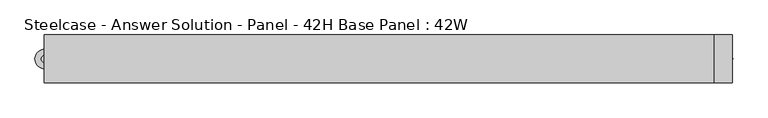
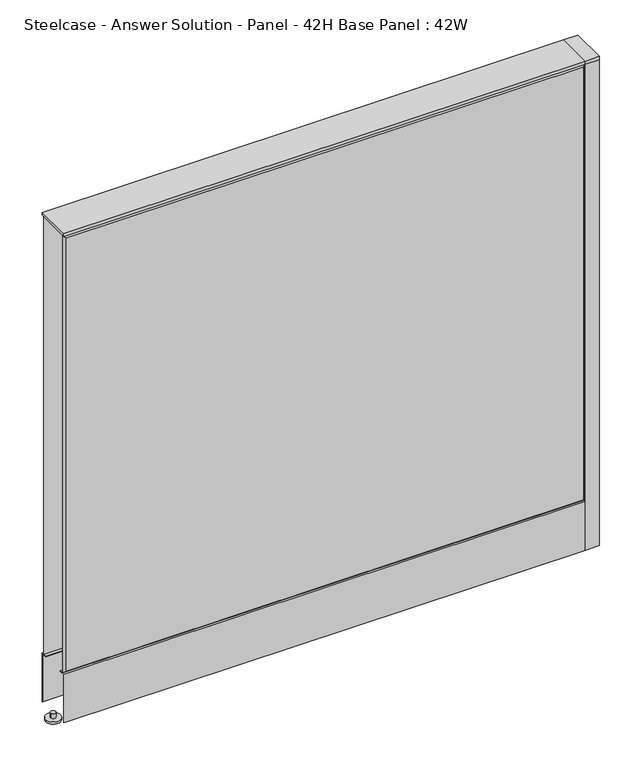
"""IFC4 building model written with IfcOpenShell, lengths in millimetres: furniture geometry, Steelcase - Answer Solution - Panel - 42H Base Panel : 42W."""

from ifc_helpers import new_model, si_unit, point, frame, frame_2d, origin, place, context, project, spatial, polyline, circle_curve, trimmed, segment, composite_curve, outline, extrude, faceted_brep, source, transform, mapped, element, save


def steelcase_answer_solution_panel_42h_base_panel_42w_d2b621ae(model_context):
    return source(origin(), model_context, "Body", "SolidModel", [
        extrude(outline(composite_curve([segment(trimmed(circle_curve(frame_2d((547.624, 0.0039657)), 5.08), [point((552.704, 0.0039657))], [point((542.544, 0.0039657))], False, "CARTESIAN"), True, "CONTINUOUS"), segment(trimmed(circle_curve(frame_2d((547.624, 0.0039657)), 5.08), [point((542.544, 0.0039657))], [point((552.704, 0.0039657))], False, "CARTESIAN"), True, "CONTINUOUS")], self_intersect=False)), frame((0.0, 0.0, 5.0799671), z_axis=(0.0, 0.0, 1.0), x_axis=(1.0, 0.0, 0.0)), (0.0, 0.0, 1.0), 10.414),
        extrude(outline(composite_curve([segment(trimmed(circle_curve(frame_2d((547.624, 0.0039657)), 15.24), [point((562.864, 0.0039657))], [point((532.384, 0.0039657))], False, "CARTESIAN"), True, "CONTINUOUS"), segment(trimmed(circle_curve(frame_2d((547.624, 0.0039657)), 15.24), [point((532.384, 0.0039657))], [point((562.864, 0.0039657))], False, "CARTESIAN"), True, "CONTINUOUS")], self_intersect=False)), frame((0.0, 0.0, -3.29e-05), z_axis=(0.0, 0.0, 1.0), x_axis=(1.0, 0.0, 0.0)), (0.0, 0.0, 1.0), 5.08),
        extrude(outline(polyline([(561.975, 38.1039851), (561.975, -38.0960149), (533.4, -38.0960149), (533.4, 38.1039851), (561.975, 38.1039851)])), frame((0.0, 0.0, 1065.8348), z_axis=(0.0, 0.0, 1.0), x_axis=(1.0, 0.0, 0.0)), (0.0, 0.0, 1.0), 7.3151671),
        extrude(outline(polyline([(561.975, 38.1039851), (561.975, -38.0960149), (533.4, -38.0960149), (533.4, 38.1039851), (561.975, 38.1039851)])), frame((0.0, 0.0, 15.4939671), z_axis=(0.0, 0.0, 1.0), x_axis=(1.0, 0.0, 0.0)), (0.0, 0.0, 1.0), 1050.3408329),
        extrude(outline(composite_curve([segment(trimmed(circle_curve(frame_2d((-533.4, 0.0039657)), 5.08), [point((-538.48, 0.0039657))], [point((-528.32, 0.0039657))], False, "CARTESIAN"), True, "CONTINUOUS"), segment(trimmed(circle_curve(frame_2d((-533.4, 0.0039657)), 5.08), [point((-528.32, 0.0039657))], [point((-538.48, 0.0039657))], False, "CARTESIAN"), True, "CONTINUOUS")], self_intersect=False)), frame((0.0, 0.0, 5.0799671), z_axis=(0.0, 0.0, 1.0), x_axis=(1.0, 0.0, 0.0)), (0.0, 0.0, 1.0), 10.414),
        extrude(outline(composite_curve([segment(trimmed(circle_curve(frame_2d((-533.4, 0.0039657)), 15.24), [point((-548.64, 0.0039657))], [point((-518.16, 0.0039657))], False, "CARTESIAN"), True, "CONTINUOUS"), segment(trimmed(circle_curve(frame_2d((-533.4, 0.0039657)), 15.24), [point((-518.16, 0.0039657))], [point((-548.64, 0.0039657))], False, "CARTESIAN"), True, "CONTINUOUS")], self_intersect=False)), frame((0.0, 0.0, -3.29e-05), z_axis=(0.0, 0.0, 1.0), x_axis=(1.0, 0.0, 0.0)), (0.0, 0.0, 1.0), 5.08),
        faceted_brep([(-528.574, 38.1635011, 1061.974), (528.574, 38.1635011, 1061.974), (528.574, 38.1635011, 125.476), (-528.574, 38.1635011, 125.476), (-533.4, 33.3375011, 1066.8), (-533.4, 33.3375011, 120.65), (533.4, 33.3375011, 120.65), (533.4, 33.3375011, 1066.8)], [[[0, 1, 2, 3]], [[4, 5, 6, 7]], [[4, 7, 1, 0]], [[7, 6, 2, 1]], [[6, 5, 3, 2]], [[5, 4, 0, 3]]]),
        faceted_brep([(528.574, -38.1635011, 1061.974), (-528.574, -38.1635011, 1061.974), (-528.574, -38.1635011, 125.476), (528.574, -38.1635011, 125.476), (533.4, -33.3375011, 1066.8), (533.4, -33.3375011, 120.65), (-533.4, -33.3375011, 120.65), (-533.4, -33.3375011, 1066.8)], [[[0, 1, 2, 3]], [[4, 5, 6, 7]], [[4, 7, 1, 0]], [[7, 6, 2, 1]], [[6, 5, 3, 2]], [[5, 4, 0, 3]]]),
        extrude(outline(polyline([(533.4, 38.1000194), (533.4, -38.1000194), (-533.4, -38.1000194), (-533.4, 38.1000194), (533.4, 38.1000194)])), frame((0.0, 0.0, 1066.8), z_axis=(0.0, 0.0, 1.0), x_axis=(1.0, 0.0, 0.0)), (0.0, 0.0, 1.0), 6.35),
        extrude(outline(polyline([(25.4000011, 119.8575157), (25.4000011, 120.65), (38.1000194, 120.65), (38.1000194, 15.494), (37.3075215, 15.494), (37.3075215, 119.8575157), (25.4000011, 119.8575157)])), frame((-533.4, 0.0, 0.0), z_axis=(1.0, 0.0, 0.0), x_axis=(0.0, 1.0, 0.0)), (0.0, 0.0, 1.0), 1066.8),
        extrude(outline(polyline([(-25.4000011, 119.8575157), (-37.3075215, 119.8575157), (-37.3075215, 15.494), (-38.1000194, 15.494), (-38.1000194, 120.65), (-25.4000011, 120.65), (-25.4000011, 119.8575157)])), frame((-533.4, 0.0, 0.0), z_axis=(1.0, 0.0, 0.0), x_axis=(0.0, 1.0, 0.0)), (0.0, 0.0, 1.0), 1066.8),
    ])


if __name__ == "__main__":
    model = new_model("IFC4")
    model_context = context("Model", 3, world=origin())
    ifc_project = project(units=[si_unit("LENGTHUNIT", "METRE", prefix="MILLI")], contexts=[model_context])
    site = spatial("IfcSite", under=ifc_project)
    building = spatial("IfcBuilding", under=site)
    placement = place(None, origin())
    steelcase_answer_solution_panel_42h_base_panel_42w_shape = steelcase_answer_solution_panel_42h_base_panel_42w_d2b621ae(model_context)
    element("IfcFurniture", 1, ObjectType="Steelcase - Answer Solution - Panel - 42H Base Panel : 42W", at=placement, inside=building, context=model_context, shape_type="MappedRepresentation", body=[
        mapped(steelcase_answer_solution_panel_42h_base_panel_42w_shape, transform((0.0, 0.0, 0.0), x_axis=(1.0, 0.0, 0.0), y_axis=(0.0, 1.0, 0.0), z_axis=(0.0, 0.0, 1.0))),
    ])
    save(model, "model.ifc")
